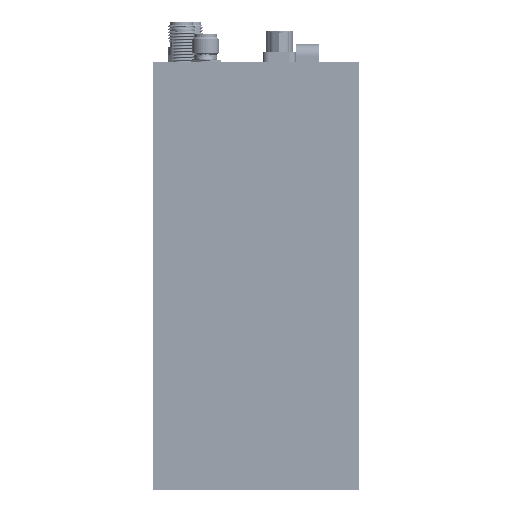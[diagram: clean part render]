
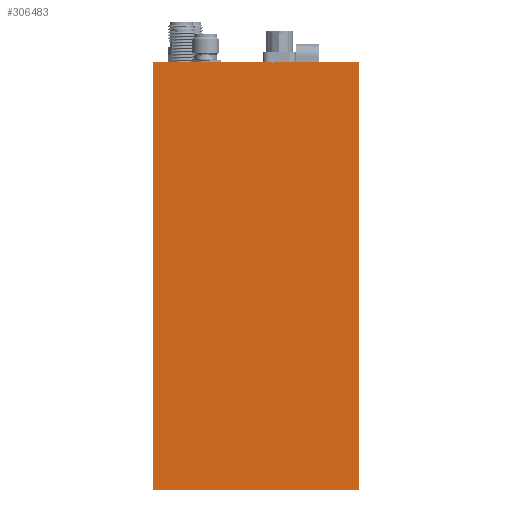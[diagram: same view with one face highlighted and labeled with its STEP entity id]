
A CAD part, left-side view. The second image highlights one B-rep face of the part: STEP entity #306483.
In plain terms, the highlighted planar face has unit normal (-1, 0, 0).
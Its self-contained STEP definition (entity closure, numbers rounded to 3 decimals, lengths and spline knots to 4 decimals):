
#7411 = VERTEX_POINT ( 'NONE', #172454 ) ;
#11450 = EDGE_CURVE ( 'NONE', #18433, #161887, #197957, .T. ) ;
#11571 = LINE ( 'NONE', #277573, #75038 ) ;
#17687 = VERTEX_POINT ( 'NONE', #142381 ) ;
#18433 = VERTEX_POINT ( 'NONE', #298060 ) ;
#25721 = EDGE_CURVE ( 'NONE', #30331, #7411, #11571, .T. ) ;
#30331 = VERTEX_POINT ( 'NONE', #235789 ) ;
#33493 = DIRECTION ( 'NONE',  ( 0., -1., 0. ) ) ;
#35882 = DIRECTION ( 'NONE',  ( 0., -1., 0. ) ) ;
#36989 = DIRECTION ( 'NONE',  ( 1., 0., 0. ) ) ;
#38910 = VERTEX_POINT ( 'NONE', #100797 ) ;
#40406 = DIRECTION ( 'NONE',  ( 0., 0., 1. ) ) ;
#48945 = ORIENTED_EDGE ( 'NONE', *, *, #110268, .T. ) ;
#58749 = LINE ( 'NONE', #198245, #191416 ) ;
#65741 = PLANE ( 'NONE',  #274116 ) ;
#75038 = VECTOR ( 'NONE', #86871, 39.3701 ) ;
#82494 = CARTESIAN_POINT ( 'NONE',  ( 0., 0.8047, -0.01 ) ) ;
#82925 = VERTEX_POINT ( 'NONE', #101912 ) ;
#83742 = ORIENTED_EDGE ( 'NONE', *, *, #25721, .F. ) ;
#86871 = DIRECTION ( 'NONE',  ( 0., 0., 1. ) ) ;
#88206 = DIRECTION ( 'NONE',  ( 0., 0., -1. ) ) ;
#95456 = LINE ( 'NONE', #193169, #179796 ) ;
#100680 = CARTESIAN_POINT ( 'NONE',  ( 0., 0., -4. ) ) ;
#100797 = CARTESIAN_POINT ( 'NONE',  ( 0., 0.7947, 0. ) ) ;
#101912 = CARTESIAN_POINT ( 'NONE',  ( 0., 0.7947, -0.01 ) ) ;
#104809 = EDGE_CURVE ( 'NONE', #38910, #82925, #95456, .T. ) ;
#105499 = VECTOR ( 'NONE', #175963, 39.3701 ) ;
#110268 = EDGE_CURVE ( 'NONE', #82925, #18433, #58749, .T. ) ;
#110350 = LINE ( 'NONE', #280216, #209508 ) ;
#112777 = EDGE_CURVE ( 'NONE', #17687, #180806, #285503, .T. ) ;
#127216 = CARTESIAN_POINT ( 'NONE',  ( 0., 0.8047, 0. ) ) ;
#142381 = CARTESIAN_POINT ( 'NONE',  ( 0., 0., -4. ) ) ;
#145125 = DIRECTION ( 'NONE',  ( 0., 0., -1. ) ) ;
#146819 = CARTESIAN_POINT ( 'NONE',  ( 0., 0., 0. ) ) ;
#147148 = EDGE_CURVE ( 'NONE', #17687, #30331, #147216, .T. ) ;
#147216 = LINE ( 'NONE', #100680, #105499 ) ;
#161887 = VERTEX_POINT ( 'NONE', #127216 ) ;
#172372 = EDGE_LOOP ( 'NONE', ( #83742, #217008, #270233, #240445, #248787, #48945, #202758, #195285 ) ) ;
#172454 = CARTESIAN_POINT ( 'NONE',  ( 0., 1.917, 0. ) ) ;
#175963 = DIRECTION ( 'NONE',  ( 0., 1., 0. ) ) ;
#179796 = VECTOR ( 'NONE', #145125, 39.3701 ) ;
#180806 = VERTEX_POINT ( 'NONE', #146819 ) ;
#185712 = VECTOR ( 'NONE', #277971, 39.3701 ) ;
#191416 = VECTOR ( 'NONE', #278250, 39.3701 ) ;
#192094 = EDGE_CURVE ( 'NONE', #7411, #161887, #110350, .T. ) ;
#193169 = CARTESIAN_POINT ( 'NONE',  ( 0., 0.7947, -0.01 ) ) ;
#195285 = ORIENTED_EDGE ( 'NONE', *, *, #192094, .F. ) ;
#197122 = VECTOR ( 'NONE', #40406, 39.3701 ) ;
#197957 = LINE ( 'NONE', #82494, #185712 ) ;
#198245 = CARTESIAN_POINT ( 'NONE',  ( 0., 0., -0.01 ) ) ;
#202758 = ORIENTED_EDGE ( 'NONE', *, *, #11450, .T. ) ;
#208603 = CARTESIAN_POINT ( 'NONE',  ( 0., 0., 0. ) ) ;
#209508 = VECTOR ( 'NONE', #33493, 39.3701 ) ;
#209959 = FACE_OUTER_BOUND ( 'NONE', #172372, .T. ) ;
#217008 = ORIENTED_EDGE ( 'NONE', *, *, #147148, .F. ) ;
#235789 = CARTESIAN_POINT ( 'NONE',  ( 0., 1.917, -4. ) ) ;
#235868 = VECTOR ( 'NONE', #35882, 39.3701 ) ;
#240445 = ORIENTED_EDGE ( 'NONE', *, *, #244025, .F. ) ;
#244025 = EDGE_CURVE ( 'NONE', #38910, #180806, #260130, .T. ) ;
#248787 = ORIENTED_EDGE ( 'NONE', *, *, #104809, .T. ) ;
#260130 = LINE ( 'NONE', #306621, #235868 ) ;
#270233 = ORIENTED_EDGE ( 'NONE', *, *, #112777, .T. ) ;
#274116 = AXIS2_PLACEMENT_3D ( 'NONE', #280556, #36989, #88206 ) ;
#277573 = CARTESIAN_POINT ( 'NONE',  ( 0., 1.917, -0.062 ) ) ;
#277971 = DIRECTION ( 'NONE',  ( 0., 0., 1. ) ) ;
#278250 = DIRECTION ( 'NONE',  ( 0., 1., 0. ) ) ;
#280216 = CARTESIAN_POINT ( 'NONE',  ( 0., 0., 0. ) ) ;
#280556 = CARTESIAN_POINT ( 'NONE',  ( 0., 0., 0. ) ) ;
#285503 = LINE ( 'NONE', #208603, #197122 ) ;
#298060 = CARTESIAN_POINT ( 'NONE',  ( 0., 0.8047, -0.01 ) ) ;
#306483 = ADVANCED_FACE ( 'NONE', ( #209959 ), #65741, .F. ) ;
#306621 = CARTESIAN_POINT ( 'NONE',  ( 0., 0., 0. ) ) ;
